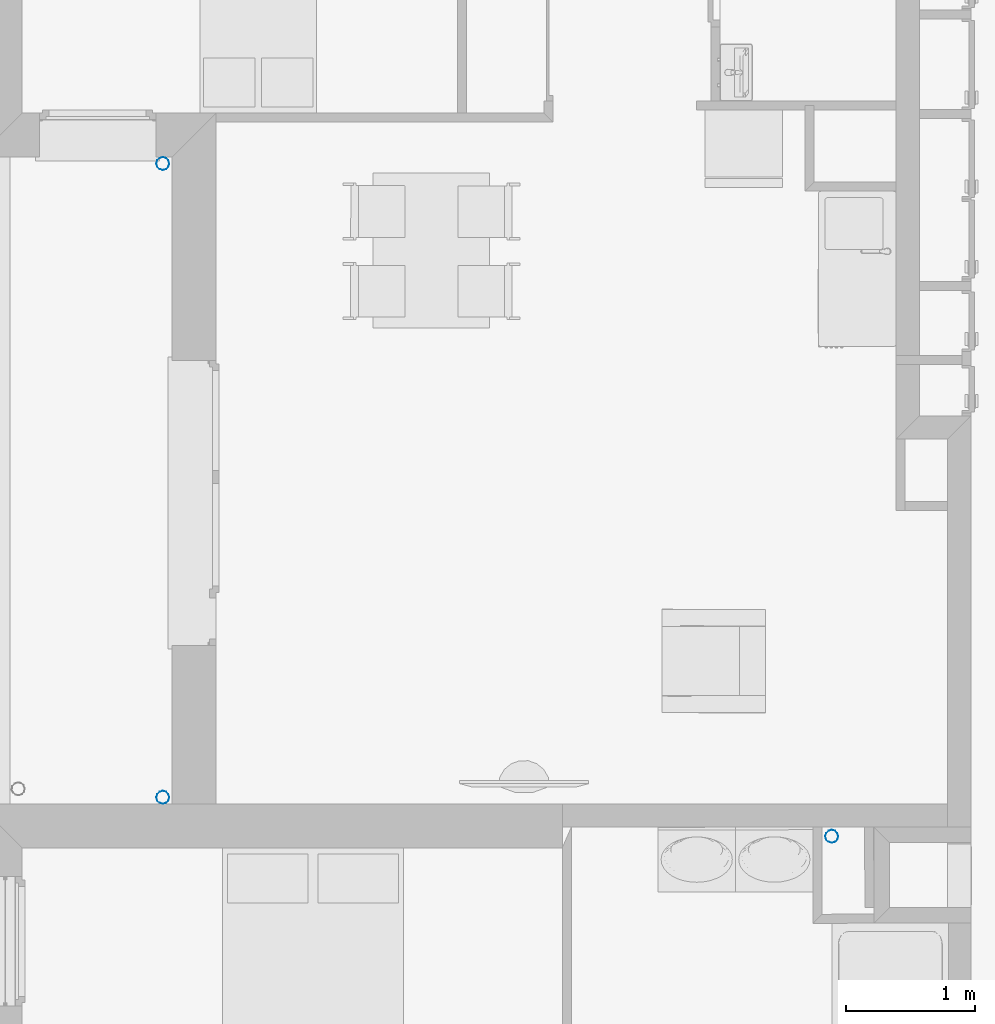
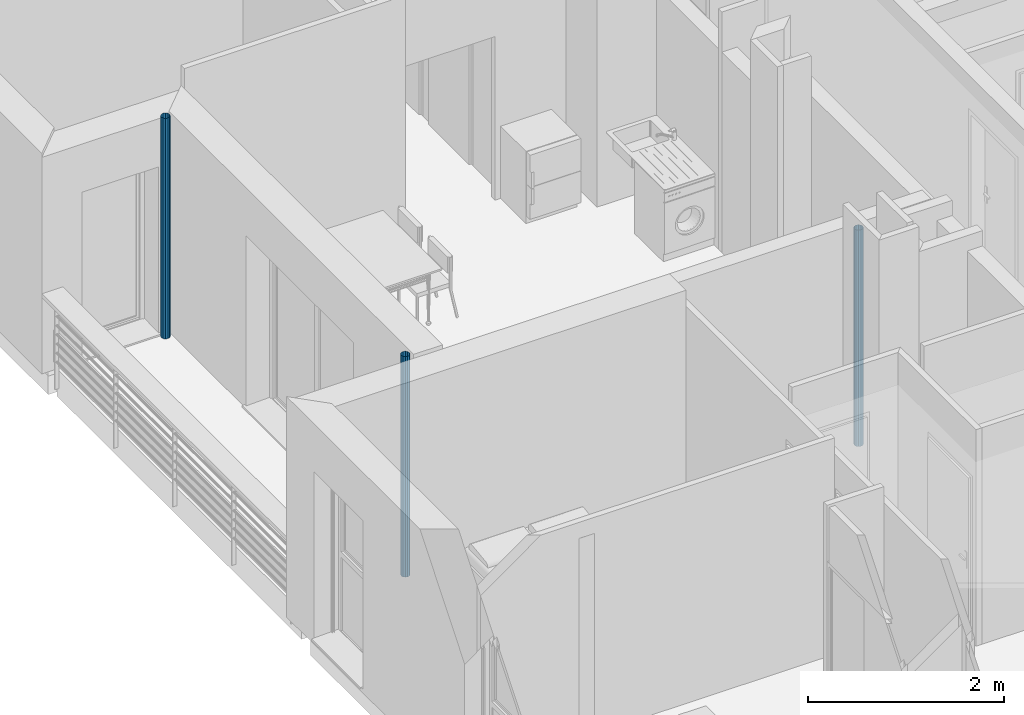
# One storey, part 91 of 171: 3 discrete accessories.
"""IFC2X3 building model written with IfcOpenShell, lengths in millimetres."""

from ifc_helpers import new_model, entity, si_unit, converted_unit, derived_unit, money_unit, direction, frame, origin_with_axes, place, context, subcontext, project, spatial, open_shell, surface_model, source, transform, mapped, type_object, element, save


model = new_model("IFC2X3")

# Units and contexts
model_context = context("Model", 3, precision=0.01, world=origin_with_axes(), true_north=direction((0.0, 1.0)))
body_context = subcontext(model_context, "Body", "Model", "MODEL_VIEW")
ifc_project = project(units=[si_unit("LENGTHUNIT", "METRE", prefix="MILLI"), si_unit("AREAUNIT", "SQUARE_METRE"), si_unit("VOLUMEUNIT", "CUBIC_METRE"), converted_unit("PLANEANGLEUNIT", "DEGREE", entity("IfcPlaneAngleMeasure", 0.0174532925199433), si_unit("PLANEANGLEUNIT", "RADIAN"), dimensions=[0, 0, 0, 0, 0, 0, 0]), money_unit("USD"), converted_unit("TIMEUNIT", "Year", entity("IfcTimeMeasure", 31557600.0), si_unit("TIMEUNIT", "SECOND"), dimensions=[0, 0, 1, 0, 0, 0, 0]), si_unit("MASSUNIT", "GRAM", prefix="KILO"), si_unit("THERMODYNAMICTEMPERATUREUNIT", "DEGREE_CELSIUS"), si_unit("LUMINOUSINTENSITYUNIT", "LUMEN"), si_unit("ENERGYUNIT", "JOULE", prefix="MEGA"), derived_unit("THERMALCONDUCTANCEUNIT", [(si_unit("POWERUNIT", "WATT"), 1), (si_unit("LENGTHUNIT", "METRE"), -1), (si_unit("THERMODYNAMICTEMPERATUREUNIT", "KELVIN"), -1)]), derived_unit("SPECIFICHEATCAPACITYUNIT", [(si_unit("ENERGYUNIT", "JOULE"), 1), (si_unit("MASSUNIT", "GRAM", prefix="KILO"), -1), (si_unit("THERMODYNAMICTEMPERATUREUNIT", "KELVIN"), -1)]), derived_unit("MASSDENSITYUNIT", [(si_unit("MASSUNIT", "GRAM", prefix="KILO"), 1), (si_unit("VOLUMEUNIT", "CUBIC_METRE"), -1)])], contexts=[model_context])

# Site, building, storey
site_placement = place(None, origin_with_axes())
site = spatial("IfcSite", under=ifc_project, at=site_placement, Name="Site", CompositionType="ELEMENT")
building_placement = place(site_placement, origin_with_axes())
building = spatial("IfcBuilding", under=site, at=building_placement, Name="Bâtiment", CompositionType="ELEMENT")
storey_placement = place(building_placement, frame((0.0, 0.0, 3000.0), z_axis=(0.0, 0.0, 1.0), x_axis=(1.0, 0.0, 0.0)))
storey = spatial("IfcBuildingStorey", under=building, at=storey_placement, Name="rdc", CompositionType="ELEMENT", Elevation=3000.0)

# Discrete accessories
discrete_accessory_type = type_object("IfcDiscreteAccessoryType", Name="Tuyau descente 27")
shared_shape_1 = source(origin_with_axes(), body_context, "Body", "SurfaceModel", [
    surface_model("IfcShellBasedSurfaceModel", [(50.0, 0.0, 2700.0), (43.30127018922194, -25.0, 2700.0), (43.30127018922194, -25.0, 0.0), (50.0, 0.0, 0.0), (25.00000000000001, -43.30127018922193, 2700.0), (25.00000000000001, -43.30127018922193, 0.0), (43.30127018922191, 25.00000000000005, 2700.0), (43.30127018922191, 25.00000000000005, 0.0), (0.0, -50.0, 2700.0), (0.0, -50.0, 0.0), (24.99999999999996, 43.30127018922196, 2700.0), (24.99999999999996, 43.30127018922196, 0.0), (-24.99999999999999, -43.30127018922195, 2700.0), (-24.99999999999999, -43.30127018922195, 0.0), (0.0, 50.0, 2700.0), (0.0, 50.0, 0.0), (-43.30127018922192, -25.00000000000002, 2700.0), (-43.30127018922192, -25.00000000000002, 0.0), (-25.00000000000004, 43.30127018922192, 2700.0), (-25.00000000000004, 43.30127018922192, 0.0), (-50.0, 0.0, 2700.0), (-50.0, 0.0, 0.0), (-43.30127018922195, 24.99999999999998, 2700.0), (-43.30127018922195, 24.99999999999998, 0.0)], [open_shell([[[0, 1, 2, 3]], [[1, 4, 5, 2]], [[6, 0, 3, 7]], [[4, 8, 9, 5]], [[10, 6, 7, 11]], [[8, 12, 13, 9]], [[14, 10, 11, 15]], [[12, 16, 17, 13]], [[18, 14, 15, 19]], [[16, 20, 21, 17]], [[22, 18, 19, 23]], [[20, 22, 23, 21]]])]),
])
discrete_accessory_placement = place(storey_placement, frame((2223236.331568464, -644268.0592895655, 0.0), z_axis=(0.0, 0.0, 1.0), x_axis=(1.0, 0.0, 0.0)))
element("IfcDiscreteAccessory", 1, at=discrete_accessory_placement, inside=storey, type_object=discrete_accessory_type, Name="Obj.-318", context=body_context, shape_type="MappedRepresentation", body=[
    mapped(shared_shape_1, transform((0.0, 0.0, 0.0))),
])
shared_shape_2 = source(origin_with_axes(), body_context, "Body", "SurfaceModel", [
    surface_model("IfcShellBasedSurfaceModel", [(50.0, 0.0, 2750.0), (43.30127018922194, -25.0, 2750.0), (43.30127018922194, -25.0, 0.0), (50.0, 0.0, 0.0), (25.00000000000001, -43.30127018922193, 2750.0), (25.00000000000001, -43.30127018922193, 0.0), (43.30127018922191, 25.00000000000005, 2750.0), (43.30127018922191, 25.00000000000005, 0.0), (0.0, -50.0, 2750.0), (0.0, -50.0, 0.0), (24.99999999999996, 43.30127018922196, 2750.0), (24.99999999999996, 43.30127018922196, 0.0), (-24.99999999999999, -43.30127018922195, 2750.0), (-24.99999999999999, -43.30127018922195, 0.0), (0.0, 50.0, 2750.0), (0.0, 50.0, 0.0), (-43.30127018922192, -25.00000000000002, 2750.0), (-43.30127018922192, -25.00000000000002, 0.0), (-25.00000000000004, 43.30127018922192, 2750.0), (-25.00000000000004, 43.30127018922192, 0.0), (-50.0, 0.0, 2750.0), (-50.0, 0.0, 0.0), (-43.30127018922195, 24.99999999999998, 2750.0), (-43.30127018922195, 24.99999999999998, 0.0)], [open_shell([[[0, 1, 2, 3]], [[1, 4, 5, 2]], [[6, 0, 3, 7]], [[4, 8, 9, 5]], [[10, 6, 7, 11]], [[8, 12, 13, 9]], [[14, 10, 11, 15]], [[12, 16, 17, 13]], [[18, 14, 15, 19]], [[16, 20, 21, 17]], [[22, 18, 19, 23]], [[20, 22, 23, 21]]])]),
])
for number, where, z_axis, x_axis, name in (
    (2, (2218064.406529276, -639066.8076992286, 0.0), (0.0, 0.0, 1.0), (1.0, 0.0, 0.0), "Obj.-318"),
    (3, (2218064.406529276, -643966.3765042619, 0.0), (0.0, 0.0, 1.0), (1.0, 0.0, 0.0), "Obj.-318"),
):
    element("IfcDiscreteAccessory", number, at=place(storey_placement, frame(where, z_axis=z_axis, x_axis=x_axis)), inside=storey, type_object=discrete_accessory_type, Name=name, context=body_context, shape_type="MappedRepresentation", body=[
        mapped(shared_shape_2, transform((0.0, 0.0, 0.0))),
    ])

save(model, "model.ifc")
